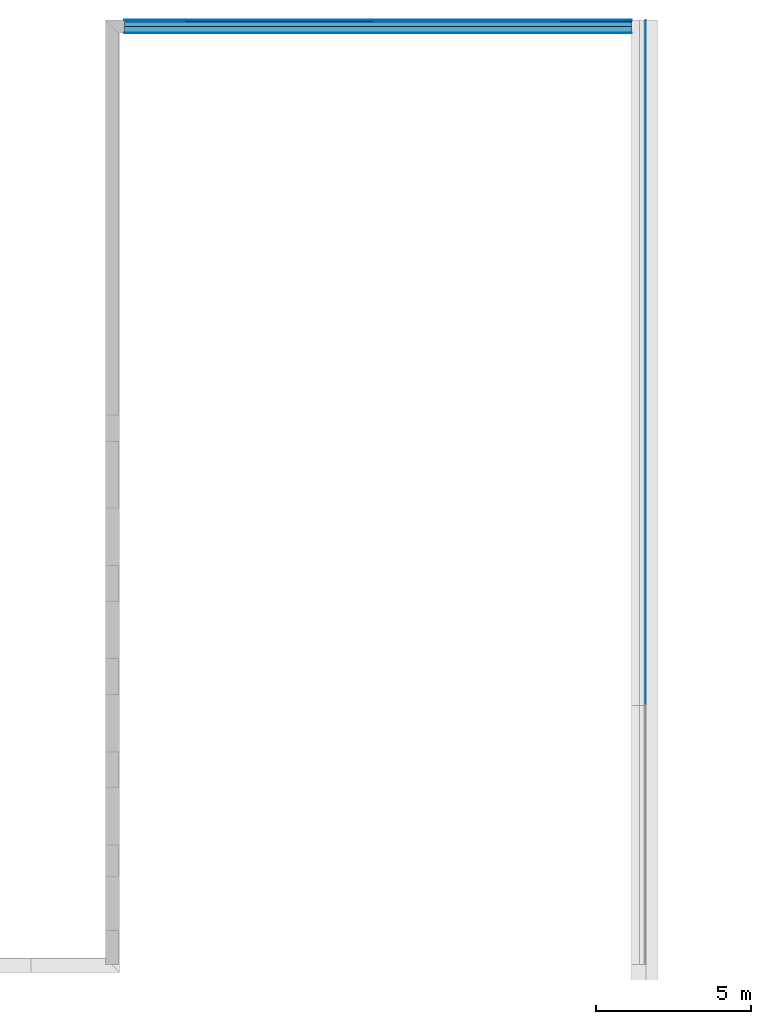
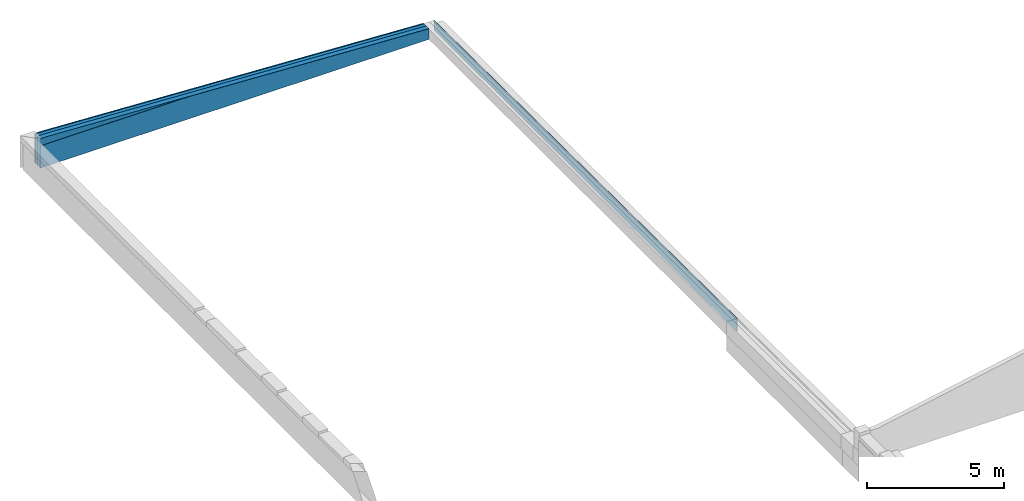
# One storey, part 16 of 17: 6 building element parts, 2 elements without a shape of their own.
"""IFC2X3 building model written with IfcOpenShell, lengths in millimetres."""

from ifc_helpers import new_model, entity, si_unit, converted_unit, derived_unit, money_unit, direction, frame, origin_with_axes, place, context, subcontext, project, spatial, polyline, outline, extrude, boolean, faceted_brep, material, type_object, element, aggregate, save


model = new_model("IFC2X3")

# Units and contexts
model_context = context("Model", 3, precision=0.01, world=origin_with_axes(), true_north=direction((0.0, 1.0)))
body_context = subcontext(model_context, "Body", "Model", "MODEL_VIEW")
ifc_project = project(units=[si_unit("LENGTHUNIT", "METRE", prefix="MILLI"), si_unit("AREAUNIT", "SQUARE_METRE"), si_unit("VOLUMEUNIT", "CUBIC_METRE"), converted_unit("PLANEANGLEUNIT", "DEGREE", entity("IfcPlaneAngleMeasure", 0.0174532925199), si_unit("PLANEANGLEUNIT", "RADIAN"), dimensions=[0, 0, 0, 0, 0, 0, 0]), si_unit("SOLIDANGLEUNIT", "STERADIAN"), money_unit("EUR"), converted_unit("TIMEUNIT", "Year", entity("IfcTimeMeasure", 31556926.0), si_unit("TIMEUNIT", "SECOND"), dimensions=[0, 0, 1, 0, 0, 0, 0]), si_unit("MASSUNIT", "GRAM", prefix="KILO"), si_unit("THERMODYNAMICTEMPERATUREUNIT", "DEGREE_CELSIUS"), si_unit("LUMINOUSINTENSITYUNIT", "LUMEN"), si_unit("ENERGYUNIT", "JOULE", prefix="MEGA"), derived_unit("THERMALCONDUCTANCEUNIT", [(si_unit("POWERUNIT", "WATT"), 1), (si_unit("LENGTHUNIT", "METRE"), -1), (si_unit("THERMODYNAMICTEMPERATUREUNIT", "KELVIN"), -1)]), derived_unit("SPECIFICHEATCAPACITYUNIT", [(si_unit("ENERGYUNIT", "JOULE"), 1), (si_unit("MASSUNIT", "GRAM", prefix="KILO"), -1), (si_unit("THERMODYNAMICTEMPERATUREUNIT", "KELVIN"), -1)]), derived_unit("MASSDENSITYUNIT", [(si_unit("MASSUNIT", "GRAM", prefix="KILO"), 1), (si_unit("VOLUMEUNIT", "CUBIC_METRE"), -1)])], contexts=[model_context])

# Site, building, storey
site_placement = place(None, origin_with_axes())
site = spatial("IfcSite", under=ifc_project, at=site_placement, Name="Puškini 31, Narva", CompositionType="ELEMENT")
building_placement = place(site_placement, origin_with_axes())
building = spatial("IfcBuilding", under=site, at=building_placement, Name="Narva Riigigümnaasium", CompositionType="ELEMENT")
storey_placement = place(building_placement, frame((0.0, 0.0, -6800.0), z_axis=(0.0, 0.0, 1.0), x_axis=(1.0, 0.0, 0.0)))
storey = spatial("IfcBuildingStorey", under=building, at=storey_placement, Name="0.korrus -6.8", CompositionType="ELEMENT", Elevation=-6800.0)

# Wall, building element parts
wall_type_1 = type_object("IfcWallType", Name="G-VS-02 420", PredefinedType="NOTDEFINED")
wall_1_placement = place(storey_placement, frame((54200.0000018, 254230.0, 2200.0), z_axis=(0.0, 0.0, 1.0), x_axis=(-1.0, 0.0, 0.0)))
wall_1 = element("IfcWall", 1, at=wall_1_placement, inside=storey, type_object=wall_type_1, Name="Sisesein")
ifc_material_1 = material(Name="Salto-siseviimistlus")
building_element_part_1_placement = place(wall_1_placement, origin_with_axes())
building_element_part_1 = element("IfcBuildingElementPart", 2, at=building_element_part_1_placement, material=ifc_material_1, Name="Salto-siseviimistlus", context=body_context, shape_type="CSG", body=[
    boolean("DIFFERENCE", boolean("DIFFERENCE", boolean("DIFFERENCE", boolean("DIFFERENCE", boolean("DIFFERENCE", extrude(outline(polyline([(-257.999999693, 200.0), (16598.0000018, 200.0), (16598.0000018, 210.0), (-257.999999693, 210.0), (-257.999999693, 200.0)])), origin_with_axes(), (0.0, 0.0, 1.0), 1300.0), faceted_brep([(10260.8884766, 200.0, 990.0), (16598.0000018, 200.0, 990.0), (16598.0000018, 200.0, 1300.0), (-257.999999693, 200.0, 1300.0), (-257.999999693, 200.0, 0.0), (250.0, 200.0, 0.0), (250.000000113, 200.0, 476.806673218), (10260.8884766, 210.0, 990.0), (16598.0000018, 210.0, 990.0), (16598.0000018, 210.0, 1300.0), (-257.999999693, 210.0, 1300.0), (-257.999999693, 210.0, 0.0), (250.0, 210.0, 0.0), (250.000000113, 210.0, 476.806673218)], [[[0, 1, 2, 3, 4, 5, 6]], [[1, 0, 7, 8]], [[1, 8, 9, 2]], [[10, 3, 2, 9]], [[10, 11, 4, 3]], [[12, 5, 4, 11]], [[5, 12, 13, 6]], [[0, 6, 13, 7]], [[13, 12, 11, 10, 9, 8, 7]]])), faceted_brep([(250.000000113, 0.0, 476.806673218), (16308.0743338, 0.0, 1300.0), (-257.999999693, 0.0, 1300.0), (-257.999999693, 0.0, 0.0), (250.0, 0.0, 0.0), (250.000000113, 200.0, 476.806673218), (10260.8884766, 200.0, 990.0), (16308.0743338, 200.0, 1300.0), (-257.999999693, 200.0, 1300.0), (-257.999999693, 200.0, 0.0), (250.0, 200.0, 0.0)], [[[0, 1, 2, 3, 4]], [[1, 0, 5, 6, 7]], [[1, 7, 8, 2]], [[8, 9, 3, 2]], [[10, 4, 3, 9]], [[4, 10, 5, 0]], [[5, 10, 9, 8, 7, 6]]])), faceted_brep([(250.000000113, -150.0, 476.806673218), (16308.0743338, -150.0, 1300.0), (-257.999999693, -150.0, 1300.0), (-257.999999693, -150.0, 0.0), (250.0, -150.0, 0.0), (250.000000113, 0.0, 476.806673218), (16308.0743338, 0.0, 1300.0), (-257.999999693, 0.0, 1300.0), (-257.999999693, 0.0, 0.0), (250.0, 0.0, 0.0)], [[[0, 1, 2, 3, 4]], [[1, 0, 5, 6]], [[1, 6, 7, 2]], [[7, 8, 3, 2]], [[9, 4, 3, 8]], [[0, 4, 9, 5]], [[5, 9, 8, 7, 6]]])), faceted_brep([(250.000000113, -200.0, 476.806673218), (16308.0743338, -200.0, 1300.0), (-257.999999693, -200.0, 1300.0), (-257.999999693, -200.0, 0.0), (250.0, -200.0, 0.0), (250.000000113, -150.0, 476.806673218), (16308.0743338, -150.0, 1300.0), (-257.999999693, -150.0, 1300.0), (-257.999999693, -150.0, 0.0), (250.0, -150.0, 0.0)], [[[0, 1, 2, 3, 4]], [[1, 0, 5, 6]], [[1, 6, 7, 2]], [[7, 8, 3, 2]], [[9, 4, 3, 8]], [[4, 9, 5, 0]], [[5, 9, 8, 7, 6]]])), faceted_brep([(250.000000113, -210.0, 476.806673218), (16308.0743338, -210.0, 1300.0), (-257.999999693, -210.0, 1300.0), (-257.999999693, -210.0, 0.0), (250.0, -210.0, 0.0), (250.000000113, -200.0, 476.806673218), (16308.0743338, -200.0, 1300.0), (-257.999999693, -200.0, 1300.0), (-257.999999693, -200.0, 0.0), (250.0, -200.0, 0.0)], [[[0, 1, 2, 3, 4]], [[1, 0, 5, 6]], [[1, 6, 7, 2]], [[7, 8, 3, 2]], [[9, 4, 3, 8]], [[0, 4, 9, 5]], [[5, 9, 8, 7, 6]]])),
])
ifc_material_2 = material(Name="Betoon element")
building_element_part_2_placement = place(wall_1_placement, origin_with_axes())
building_element_part_2 = element("IfcBuildingElementPart", 3, at=building_element_part_2_placement, material=ifc_material_2, Name="Betoon element", context=body_context, shape_type="CSG", body=[
    boolean("DIFFERENCE", boolean("DIFFERENCE", boolean("DIFFERENCE", boolean("DIFFERENCE", boolean("DIFFERENCE", extrude(outline(polyline([(-257.999999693, 0.0), (16598.0000018, 0.0), (16598.0000018, 200.0), (-257.999999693, 200.0), (-257.999999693, 0.0)])), origin_with_axes(), (0.0, 0.0, 1.0), 1300.0), faceted_brep([(10260.8884766, 200.0, 990.0), (16598.0000018, 200.0, 990.0), (16598.0000018, 200.0, 1300.0), (-257.999999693, 200.0, 1300.0), (-257.999999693, 200.0, 0.0), (250.0, 200.0, 0.0), (250.000000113, 200.0, 476.806673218), (10260.8884766, 210.0, 990.0), (16598.0000018, 210.0, 990.0), (16598.0000018, 210.0, 1300.0), (-257.999999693, 210.0, 1300.0), (-257.999999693, 210.0, 0.0), (250.0, 210.0, 0.0), (250.000000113, 210.0, 476.806673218)], [[[0, 1, 2, 3, 4, 5, 6]], [[1, 0, 7, 8]], [[1, 8, 9, 2]], [[10, 3, 2, 9]], [[10, 11, 4, 3]], [[12, 5, 4, 11]], [[5, 12, 13, 6]], [[0, 6, 13, 7]], [[13, 12, 11, 10, 9, 8, 7]]])), faceted_brep([(250.000000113, 0.0, 476.806673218), (16308.0743338, 0.0, 1300.0), (-257.999999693, 0.0, 1300.0), (-257.999999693, 0.0, 0.0), (250.0, 0.0, 0.0), (250.000000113, 200.0, 476.806673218), (10260.8884766, 200.0, 990.0), (16308.0743338, 200.0, 1300.0), (-257.999999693, 200.0, 1300.0), (-257.999999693, 200.0, 0.0), (250.0, 200.0, 0.0)], [[[0, 1, 2, 3, 4]], [[1, 0, 5, 6, 7]], [[1, 7, 8, 2]], [[8, 9, 3, 2]], [[10, 4, 3, 9]], [[4, 10, 5, 0]], [[5, 10, 9, 8, 7, 6]]])), faceted_brep([(250.000000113, -150.0, 476.806673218), (16308.0743338, -150.0, 1300.0), (-257.999999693, -150.0, 1300.0), (-257.999999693, -150.0, 0.0), (250.0, -150.0, 0.0), (250.000000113, 0.0, 476.806673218), (16308.0743338, 0.0, 1300.0), (-257.999999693, 0.0, 1300.0), (-257.999999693, 0.0, 0.0), (250.0, 0.0, 0.0)], [[[0, 1, 2, 3, 4]], [[1, 0, 5, 6]], [[1, 6, 7, 2]], [[7, 8, 3, 2]], [[9, 4, 3, 8]], [[0, 4, 9, 5]], [[5, 9, 8, 7, 6]]])), faceted_brep([(250.000000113, -200.0, 476.806673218), (16308.0743338, -200.0, 1300.0), (-257.999999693, -200.0, 1300.0), (-257.999999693, -200.0, 0.0), (250.0, -200.0, 0.0), (250.000000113, -150.0, 476.806673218), (16308.0743338, -150.0, 1300.0), (-257.999999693, -150.0, 1300.0), (-257.999999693, -150.0, 0.0), (250.0, -150.0, 0.0)], [[[0, 1, 2, 3, 4]], [[1, 0, 5, 6]], [[1, 6, 7, 2]], [[7, 8, 3, 2]], [[9, 4, 3, 8]], [[4, 9, 5, 0]], [[5, 9, 8, 7, 6]]])), faceted_brep([(250.000000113, -210.0, 476.806673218), (16308.0743338, -210.0, 1300.0), (-257.999999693, -210.0, 1300.0), (-257.999999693, -210.0, 0.0), (250.0, -210.0, 0.0), (250.000000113, -200.0, 476.806673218), (16308.0743338, -200.0, 1300.0), (-257.999999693, -200.0, 1300.0), (-257.999999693, -200.0, 0.0), (250.0, -200.0, 0.0)], [[[0, 1, 2, 3, 4]], [[1, 0, 5, 6]], [[1, 6, 7, 2]], [[7, 8, 3, 2]], [[9, 4, 3, 8]], [[0, 4, 9, 5]], [[5, 9, 8, 7, 6]]])),
])
ifc_material_3 = material(Name="Salto-PIR soojustus")
building_element_part_3_placement = place(wall_1_placement, origin_with_axes())
building_element_part_3 = element("IfcBuildingElementPart", 4, at=building_element_part_3_placement, material=ifc_material_3, Name="Salto-PIR soojustus", context=body_context, shape_type="CSG", body=[
    boolean("DIFFERENCE", boolean("DIFFERENCE", boolean("DIFFERENCE", boolean("DIFFERENCE", boolean("DIFFERENCE", extrude(outline(polyline([(-257.999999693, -150.0), (16598.0000018, -150.0), (16598.0000018, 0.0), (-257.999999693, 0.0), (-257.999999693, -150.0)])), origin_with_axes(), (0.0, 0.0, 1.0), 1300.0), faceted_brep([(10260.8884766, 200.0, 990.0), (16598.0000018, 200.0, 990.0), (16598.0000018, 200.0, 1300.0), (-257.999999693, 200.0, 1300.0), (-257.999999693, 200.0, 0.0), (250.0, 200.0, 0.0), (250.000000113, 200.0, 476.806673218), (10260.8884766, 210.0, 990.0), (16598.0000018, 210.0, 990.0), (16598.0000018, 210.0, 1300.0), (-257.999999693, 210.0, 1300.0), (-257.999999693, 210.0, 0.0), (250.0, 210.0, 0.0), (250.000000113, 210.0, 476.806673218)], [[[0, 1, 2, 3, 4, 5, 6]], [[1, 0, 7, 8]], [[1, 8, 9, 2]], [[10, 3, 2, 9]], [[10, 11, 4, 3]], [[12, 5, 4, 11]], [[5, 12, 13, 6]], [[0, 6, 13, 7]], [[13, 12, 11, 10, 9, 8, 7]]])), faceted_brep([(250.000000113, 0.0, 476.806673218), (16308.0743338, 0.0, 1300.0), (-257.999999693, 0.0, 1300.0), (-257.999999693, 0.0, 0.0), (250.0, 0.0, 0.0), (250.000000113, 200.0, 476.806673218), (10260.8884766, 200.0, 990.0), (16308.0743338, 200.0, 1300.0), (-257.999999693, 200.0, 1300.0), (-257.999999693, 200.0, 0.0), (250.0, 200.0, 0.0)], [[[0, 1, 2, 3, 4]], [[1, 0, 5, 6, 7]], [[1, 7, 8, 2]], [[8, 9, 3, 2]], [[10, 4, 3, 9]], [[4, 10, 5, 0]], [[5, 10, 9, 8, 7, 6]]])), faceted_brep([(250.000000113, -150.0, 476.806673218), (16308.0743338, -150.0, 1300.0), (-257.999999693, -150.0, 1300.0), (-257.999999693, -150.0, 0.0), (250.0, -150.0, 0.0), (250.000000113, 0.0, 476.806673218), (16308.0743338, 0.0, 1300.0), (-257.999999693, 0.0, 1300.0), (-257.999999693, 0.0, 0.0), (250.0, 0.0, 0.0)], [[[0, 1, 2, 3, 4]], [[1, 0, 5, 6]], [[1, 6, 7, 2]], [[7, 8, 3, 2]], [[9, 4, 3, 8]], [[0, 4, 9, 5]], [[5, 9, 8, 7, 6]]])), faceted_brep([(250.000000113, -200.0, 476.806673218), (16308.0743338, -200.0, 1300.0), (-257.999999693, -200.0, 1300.0), (-257.999999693, -200.0, 0.0), (250.0, -200.0, 0.0), (250.000000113, -150.0, 476.806673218), (16308.0743338, -150.0, 1300.0), (-257.999999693, -150.0, 1300.0), (-257.999999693, -150.0, 0.0), (250.0, -150.0, 0.0)], [[[0, 1, 2, 3, 4]], [[1, 0, 5, 6]], [[1, 6, 7, 2]], [[7, 8, 3, 2]], [[9, 4, 3, 8]], [[4, 9, 5, 0]], [[5, 9, 8, 7, 6]]])), faceted_brep([(250.000000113, -210.0, 476.806673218), (16308.0743338, -210.0, 1300.0), (-257.999999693, -210.0, 1300.0), (-257.999999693, -210.0, 0.0), (250.0, -210.0, 0.0), (250.000000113, -200.0, 476.806673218), (16308.0743338, -200.0, 1300.0), (-257.999999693, -200.0, 1300.0), (-257.999999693, -200.0, 0.0), (250.0, -200.0, 0.0)], [[[0, 1, 2, 3, 4]], [[1, 0, 5, 6]], [[1, 6, 7, 2]], [[7, 8, 3, 2]], [[9, 4, 3, 8]], [[0, 4, 9, 5]], [[5, 9, 8, 7, 6]]])),
])
building_element_part_4_placement = place(wall_1_placement, origin_with_axes())
building_element_part_4 = element("IfcBuildingElementPart", 5, at=building_element_part_4_placement, material=ifc_material_3, Name="Salto-PIR soojustus", context=body_context, shape_type="CSG", body=[
    boolean("DIFFERENCE", boolean("DIFFERENCE", boolean("DIFFERENCE", boolean("DIFFERENCE", boolean("DIFFERENCE", extrude(outline(polyline([(-257.999999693, -200.0), (16598.0000018, -200.0), (16598.0000018, -150.0), (-257.999999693, -150.0), (-257.999999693, -200.0)])), origin_with_axes(), (0.0, 0.0, 1.0), 1300.0), faceted_brep([(10260.8884766, 200.0, 990.0), (16598.0000018, 200.0, 990.0), (16598.0000018, 200.0, 1300.0), (-257.999999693, 200.0, 1300.0), (-257.999999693, 200.0, 0.0), (250.0, 200.0, 0.0), (250.000000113, 200.0, 476.806673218), (10260.8884766, 210.0, 990.0), (16598.0000018, 210.0, 990.0), (16598.0000018, 210.0, 1300.0), (-257.999999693, 210.0, 1300.0), (-257.999999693, 210.0, 0.0), (250.0, 210.0, 0.0), (250.000000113, 210.0, 476.806673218)], [[[0, 1, 2, 3, 4, 5, 6]], [[1, 0, 7, 8]], [[1, 8, 9, 2]], [[10, 3, 2, 9]], [[10, 11, 4, 3]], [[12, 5, 4, 11]], [[5, 12, 13, 6]], [[0, 6, 13, 7]], [[13, 12, 11, 10, 9, 8, 7]]])), faceted_brep([(250.000000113, 0.0, 476.806673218), (16308.0743338, 0.0, 1300.0), (-257.999999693, 0.0, 1300.0), (-257.999999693, 0.0, 0.0), (250.0, 0.0, 0.0), (250.000000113, 200.0, 476.806673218), (10260.8884766, 200.0, 990.0), (16308.0743338, 200.0, 1300.0), (-257.999999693, 200.0, 1300.0), (-257.999999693, 200.0, 0.0), (250.0, 200.0, 0.0)], [[[0, 1, 2, 3, 4]], [[1, 0, 5, 6, 7]], [[1, 7, 8, 2]], [[8, 9, 3, 2]], [[10, 4, 3, 9]], [[4, 10, 5, 0]], [[5, 10, 9, 8, 7, 6]]])), faceted_brep([(250.000000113, -150.0, 476.806673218), (16308.0743338, -150.0, 1300.0), (-257.999999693, -150.0, 1300.0), (-257.999999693, -150.0, 0.0), (250.0, -150.0, 0.0), (250.000000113, 0.0, 476.806673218), (16308.0743338, 0.0, 1300.0), (-257.999999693, 0.0, 1300.0), (-257.999999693, 0.0, 0.0), (250.0, 0.0, 0.0)], [[[0, 1, 2, 3, 4]], [[1, 0, 5, 6]], [[1, 6, 7, 2]], [[7, 8, 3, 2]], [[9, 4, 3, 8]], [[0, 4, 9, 5]], [[5, 9, 8, 7, 6]]])), faceted_brep([(250.000000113, -200.0, 476.806673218), (16308.0743338, -200.0, 1300.0), (-257.999999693, -200.0, 1300.0), (-257.999999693, -200.0, 0.0), (250.0, -200.0, 0.0), (250.000000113, -150.0, 476.806673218), (16308.0743338, -150.0, 1300.0), (-257.999999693, -150.0, 1300.0), (-257.999999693, -150.0, 0.0), (250.0, -150.0, 0.0)], [[[0, 1, 2, 3, 4]], [[1, 0, 5, 6]], [[1, 6, 7, 2]], [[7, 8, 3, 2]], [[9, 4, 3, 8]], [[4, 9, 5, 0]], [[5, 9, 8, 7, 6]]])), faceted_brep([(250.000000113, -210.0, 476.806673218), (16308.0743338, -210.0, 1300.0), (-257.999999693, -210.0, 1300.0), (-257.999999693, -210.0, 0.0), (250.0, -210.0, 0.0), (250.000000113, -200.0, 476.806673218), (16308.0743338, -200.0, 1300.0), (-257.999999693, -200.0, 1300.0), (-257.999999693, -200.0, 0.0), (250.0, -200.0, 0.0)], [[[0, 1, 2, 3, 4]], [[1, 0, 5, 6]], [[1, 6, 7, 2]], [[7, 8, 3, 2]], [[9, 4, 3, 8]], [[0, 4, 9, 5]], [[5, 9, 8, 7, 6]]])),
])
ifc_material_4 = material(Name="Krohv")
building_element_part_5_placement = place(wall_1_placement, origin_with_axes())
building_element_part_5 = element("IfcBuildingElementPart", 6, at=building_element_part_5_placement, material=ifc_material_4, Name="Krohv", context=body_context, shape_type="CSG", body=[
    boolean("DIFFERENCE", boolean("DIFFERENCE", boolean("DIFFERENCE", boolean("DIFFERENCE", boolean("DIFFERENCE", extrude(outline(polyline([(-257.999999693, -210.0), (16598.0000018, -210.0), (16598.0000018, -200.0), (-257.999999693, -200.0), (-257.999999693, -210.0)])), origin_with_axes(), (0.0, 0.0, 1.0), 1300.0), faceted_brep([(10260.8884766, 200.0, 990.0), (16598.0000018, 200.0, 990.0), (16598.0000018, 200.0, 1300.0), (-257.999999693, 200.0, 1300.0), (-257.999999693, 200.0, 0.0), (250.0, 200.0, 0.0), (250.000000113, 200.0, 476.806673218), (10260.8884766, 210.0, 990.0), (16598.0000018, 210.0, 990.0), (16598.0000018, 210.0, 1300.0), (-257.999999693, 210.0, 1300.0), (-257.999999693, 210.0, 0.0), (250.0, 210.0, 0.0), (250.000000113, 210.0, 476.806673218)], [[[0, 1, 2, 3, 4, 5, 6]], [[1, 0, 7, 8]], [[1, 8, 9, 2]], [[10, 3, 2, 9]], [[10, 11, 4, 3]], [[12, 5, 4, 11]], [[5, 12, 13, 6]], [[0, 6, 13, 7]], [[13, 12, 11, 10, 9, 8, 7]]])), faceted_brep([(250.000000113, 0.0, 476.806673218), (16308.0743338, 0.0, 1300.0), (-257.999999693, 0.0, 1300.0), (-257.999999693, 0.0, 0.0), (250.0, 0.0, 0.0), (250.000000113, 200.0, 476.806673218), (10260.8884766, 200.0, 990.0), (16308.0743338, 200.0, 1300.0), (-257.999999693, 200.0, 1300.0), (-257.999999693, 200.0, 0.0), (250.0, 200.0, 0.0)], [[[0, 1, 2, 3, 4]], [[1, 0, 5, 6, 7]], [[1, 7, 8, 2]], [[8, 9, 3, 2]], [[10, 4, 3, 9]], [[4, 10, 5, 0]], [[5, 10, 9, 8, 7, 6]]])), faceted_brep([(250.000000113, -150.0, 476.806673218), (16308.0743338, -150.0, 1300.0), (-257.999999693, -150.0, 1300.0), (-257.999999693, -150.0, 0.0), (250.0, -150.0, 0.0), (250.000000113, 0.0, 476.806673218), (16308.0743338, 0.0, 1300.0), (-257.999999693, 0.0, 1300.0), (-257.999999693, 0.0, 0.0), (250.0, 0.0, 0.0)], [[[0, 1, 2, 3, 4]], [[1, 0, 5, 6]], [[1, 6, 7, 2]], [[7, 8, 3, 2]], [[9, 4, 3, 8]], [[0, 4, 9, 5]], [[5, 9, 8, 7, 6]]])), faceted_brep([(250.000000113, -200.0, 476.806673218), (16308.0743338, -200.0, 1300.0), (-257.999999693, -200.0, 1300.0), (-257.999999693, -200.0, 0.0), (250.0, -200.0, 0.0), (250.000000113, -150.0, 476.806673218), (16308.0743338, -150.0, 1300.0), (-257.999999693, -150.0, 1300.0), (-257.999999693, -150.0, 0.0), (250.0, -150.0, 0.0)], [[[0, 1, 2, 3, 4]], [[1, 0, 5, 6]], [[1, 6, 7, 2]], [[7, 8, 3, 2]], [[9, 4, 3, 8]], [[4, 9, 5, 0]], [[5, 9, 8, 7, 6]]])), faceted_brep([(250.000000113, -210.0, 476.806673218), (16308.0743338, -210.0, 1300.0), (-257.999999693, -210.0, 1300.0), (-257.999999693, -210.0, 0.0), (250.0, -210.0, 0.0), (250.000000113, -200.0, 476.806673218), (16308.0743338, -200.0, 1300.0), (-257.999999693, -200.0, 1300.0), (-257.999999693, -200.0, 0.0), (250.0, -200.0, 0.0)], [[[0, 1, 2, 3, 4]], [[1, 0, 5, 6]], [[1, 6, 7, 2]], [[7, 8, 3, 2]], [[9, 4, 3, 8]], [[0, 4, 9, 5]], [[5, 9, 8, 7, 6]]])),
])
aggregate(wall_1, [building_element_part_1, building_element_part_2, building_element_part_3, building_element_part_4, building_element_part_5])

# Wall, building element part
wall_type_2 = type_object("IfcWallType", Name="G-VS-05 460", PredefinedType="NOTDEFINED")
wall_2_placement = place(storey_placement, frame((54200.0000018, 232343.933081, 2200.0), z_axis=(0.0, 0.0, 1.0), x_axis=(0.0, 1.0, 0.0)))
wall_2 = element("IfcWall", 7, at=wall_2_placement, inside=storey, type_object=wall_type_2, Name="Sisesein")
building_element_part_6_placement = place(wall_2_placement, origin_with_axes())
building_element_part_6 = element("IfcBuildingElementPart", 8, at=building_element_part_6_placement, material=ifc_material_4, Name="Krohv", context=body_context, shape_type="CSG", body=[
    boolean("DIFFERENCE", boolean("DIFFERENCE", boolean("DIFFERENCE", boolean("DIFFERENCE", extrude(outline(polyline([(0.0, -210.0), (22096.066919, -210.0), (22096.066919, -200.0), (0.0, -200.0), (0.0, -210.0)])), origin_with_axes(), (0.0, 0.0, 1.0), 1436.93976611), faceted_brep([(21886.066919, -6.09822592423e-06, 450.66228081), (22062.3904477, -6.09822592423e-06, 450.66228081), (22096.066919, -6.09544770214e-06, 450.456900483), (22096.066919, 0.0, 1436.93976611), (0.0, 0.0, 1436.93976611), (0.0, 0.0, 585.21262979), (21886.066919, -6.09222894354e-06, 451.737612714), (21886.066919, 250.000004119, 450.66228081), (22062.3904477, 250.000004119, 450.66228081), (22096.066919, 250.000004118, 450.456900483), (22096.066919, 250.0, 1436.93976611), (0.0, 250.0, 1436.93976611), (0.0, 250.0, 585.21262979), (21886.066919, 250.000004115, 451.737612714)], [[[0, 1, 2, 3, 4, 5, 6]], [[7, 8, 1, 0]], [[9, 2, 1, 8]], [[2, 9, 10, 3]], [[11, 4, 3, 10]], [[12, 5, 4, 11]], [[6, 5, 12, 13]], [[13, 7, 0, 6]], [[13, 12, 11, 10, 9, 8, 7]]])), faceted_brep([(21886.066919, -150.0, 450.66228081), (22062.3904477, -150.0, 450.66228081), (22096.066919, -150.0, 450.456900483), (22096.066919, -150.0, 1436.93976611), (0.0, -150.0, 1436.93976611), (0.0, -150.0, 585.21262979), (21886.066919, -150.0, 451.737612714), (21886.066919, -6.09822592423e-06, 450.66228081), (22062.3904477, -6.09822592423e-06, 450.66228081), (22096.066919, -6.09544770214e-06, 450.456900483), (22096.066919, 0.0, 1436.93976611), (0.0, 0.0, 1436.93976611), (0.0, 0.0, 585.21262979), (21886.066919, -6.09222894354e-06, 451.737612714)], [[[0, 1, 2, 3, 4, 5, 6]], [[1, 0, 7, 8]], [[9, 2, 1, 8]], [[2, 9, 10, 3]], [[11, 4, 3, 10]], [[12, 5, 4, 11]], [[6, 5, 12, 13]], [[0, 6, 13, 7]], [[13, 12, 11, 10, 9, 8, 7]]])), faceted_brep([(21886.066919, -199.999999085, 450.66228081), (22062.3904477, -199.999999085, 450.66228081), (22096.066919, -199.999999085, 450.456900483), (22096.066919, -200.0, 1436.93976611), (0.0, -200.0, 1436.93976611), (0.0, -200.0, 585.21262979), (21886.066919, -199.999999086, 451.737612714), (21886.066919, -150.0, 450.66228081), (22062.3904477, -150.0, 450.66228081), (22096.066919, -150.0, 450.456900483), (22096.066919, -150.0, 1436.93976611), (0.0, -150.0, 1436.93976611), (0.0, -150.0, 585.21262979), (21886.066919, -150.0, 451.737612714)], [[[0, 1, 2, 3, 4, 5, 6]], [[7, 8, 1, 0]], [[9, 2, 1, 8]], [[2, 9, 10, 3]], [[11, 4, 3, 10]], [[12, 5, 4, 11]], [[6, 5, 12, 13]], [[13, 7, 0, 6]], [[13, 12, 11, 10, 9, 8, 7]]])), faceted_brep([(21886.066919, -210.0, 450.66228081), (22062.3904477, -210.0, 450.66228081), (22096.066919, -210.0, 450.456900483), (22096.066919, -210.0, 1436.93976611), (0.0, -210.0, 1436.93976611), (0.0, -210.0, 585.21262979), (21886.066919, -210.0, 451.737612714), (21886.066919, -199.999999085, 450.66228081), (22062.3904477, -199.999999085, 450.66228081), (22096.066919, -199.999999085, 450.456900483), (22096.066919, -200.0, 1436.93976611), (0.0, -200.0, 1436.93976611), (0.0, -200.0, 585.21262979), (21886.066919, -199.999999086, 451.737612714)], [[[0, 1, 2, 3, 4, 5, 6]], [[1, 0, 7, 8]], [[9, 2, 1, 8]], [[2, 9, 10, 3]], [[11, 4, 3, 10]], [[12, 5, 4, 11]], [[6, 5, 12, 13]], [[0, 6, 13, 7]], [[13, 12, 11, 10, 9, 8, 7]]])),
])
aggregate(wall_2, [building_element_part_6])

save(model, "model.ifc")
